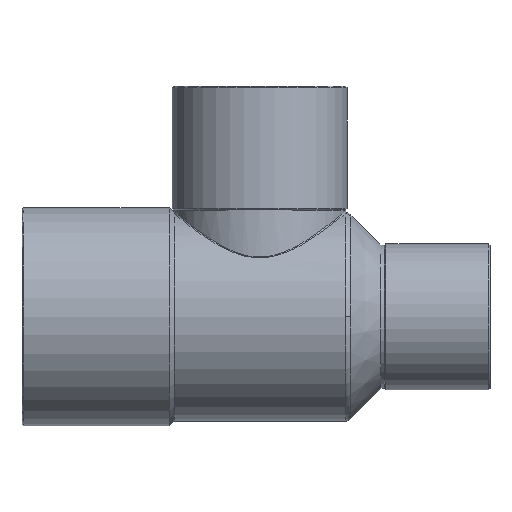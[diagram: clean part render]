
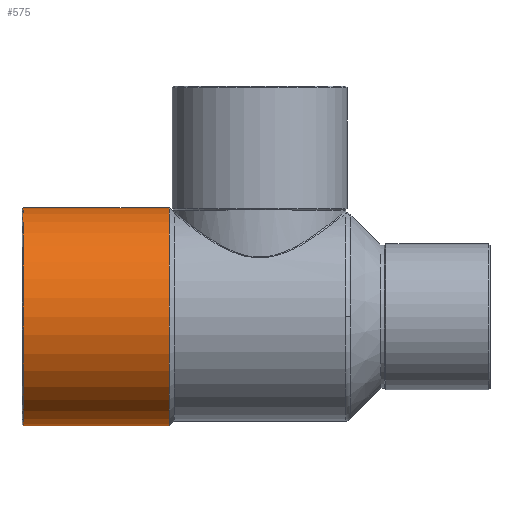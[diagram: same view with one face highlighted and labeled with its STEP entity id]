
A CAD part, top view. The second image highlights one B-rep face of the part: STEP entity #575.
In plain terms, the highlighted cylindrical face has radius 15.16 mm (diameter 30.32 mm), a partial arc.
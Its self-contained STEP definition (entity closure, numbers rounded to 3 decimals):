
#339=CARTESIAN_POINT('',(-12.544,15.16,0.0));
#340=VERTEX_POINT('',#339);
#349=CARTESIAN_POINT('',(-12.544,-15.16,0.));
#350=VERTEX_POINT('',#349);
#351=CARTESIAN_POINT('',(-12.544,0.0,0.0));
#352=DIRECTION('',(1.0,0.0,0.0));
#353=DIRECTION('',(0.0,1.0,0.0));
#354=AXIS2_PLACEMENT_3D('',#351,#352,#353);
#355=CIRCLE('',#354,15.16);
#356=EDGE_CURVE('',#340,#350,#355,.T.);
#544=CARTESIAN_POINT('',(-22.772,0.0,0.0));
#545=DIRECTION('',(1.0,0.0,0.0));
#546=DIRECTION('',(0.0,1.0,0.0));
#547=AXIS2_PLACEMENT_3D('',#544,#545,#546);
#548=CYLINDRICAL_SURFACE('',#547,15.16);
#549=CARTESIAN_POINT('',(-32.8,15.16,0.));
#550=VERTEX_POINT('',#549);
#551=CARTESIAN_POINT('',(-32.8,15.16,0.));
#552=DIRECTION('',(1.0,0.0,0.0));
#553=VECTOR('',#552,20.256);
#554=LINE('',#551,#553);
#555=EDGE_CURVE('',#550,#340,#554,.T.);
#556=ORIENTED_EDGE('',*,*,#555,.F.);
#557=CARTESIAN_POINT('',(-32.8,-15.16,0.));
#558=VERTEX_POINT('',#557);
#559=CARTESIAN_POINT('',(-32.8,0.0,0.0));
#560=DIRECTION('',(-1.0,0.0,0.0));
#561=DIRECTION('',(0.0,-1.0,0.0));
#562=AXIS2_PLACEMENT_3D('',#559,#560,#561);
#563=CIRCLE('',#562,15.16);
#564=EDGE_CURVE('',#558,#550,#563,.T.);
#565=ORIENTED_EDGE('',*,*,#564,.F.);
#566=CARTESIAN_POINT('',(-12.544,-15.16,0.));
#567=DIRECTION('',(-1.0,0.0,0.0));
#568=VECTOR('',#567,20.256);
#569=LINE('',#566,#568);
#570=EDGE_CURVE('',#350,#558,#569,.T.);
#571=ORIENTED_EDGE('',*,*,#570,.F.);
#572=ORIENTED_EDGE('',*,*,#356,.F.);
#573=EDGE_LOOP('',(#556,#565,#571,#572));
#574=FACE_OUTER_BOUND('',#573,.T.);
#575=ADVANCED_FACE('',(#574),#548,.T.);
